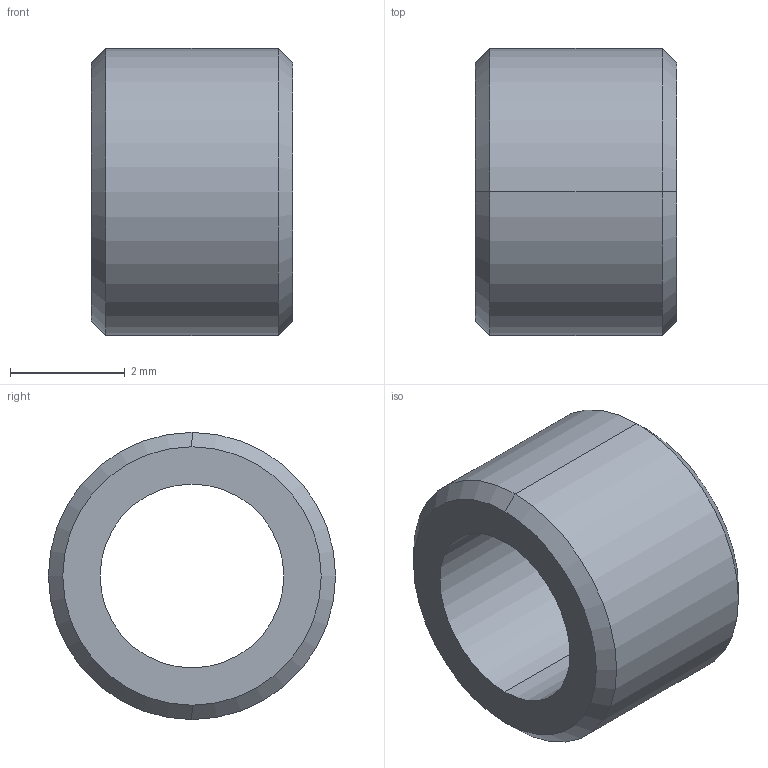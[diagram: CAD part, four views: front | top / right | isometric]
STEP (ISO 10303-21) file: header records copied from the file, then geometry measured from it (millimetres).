
FILE_DESCRIPTION (( 'STEP AP203' ), '1' );
FILE_NAME ('69000708_D5d3,2L3,5.STEP', '2018-06-22T12:25:27', ( '' ), ( '' ), 'SwSTEP 2.0', 'SolidWorks 2015', '' );
FILE_SCHEMA (( 'CONFIG_CONTROL_DESIGN' ));
Length unit declared in the file: millimetre
Products named in the file (1): 69000708_D5d3,2L3,5
Bounding box: 3.5 x 5 x 5 mm (x, y, z)
Volume: 39.6 mm3; surface area: 108.6 mm2
Topology: 1 solids, 1 shells, 10 faces, 20 edges, 12 vertices
Faces by surface type: cone 4, cylinder 4, plane 2
Entity records: 345 total; most frequent: DIRECTION 54, CARTESIAN_POINT 43, ORIENTED_EDGE 40, AXIS2_PLACEMENT_3D 23, EDGE_CURVE 20, VERTEX_POINT 12, EDGE_LOOP 12, CIRCLE 12
